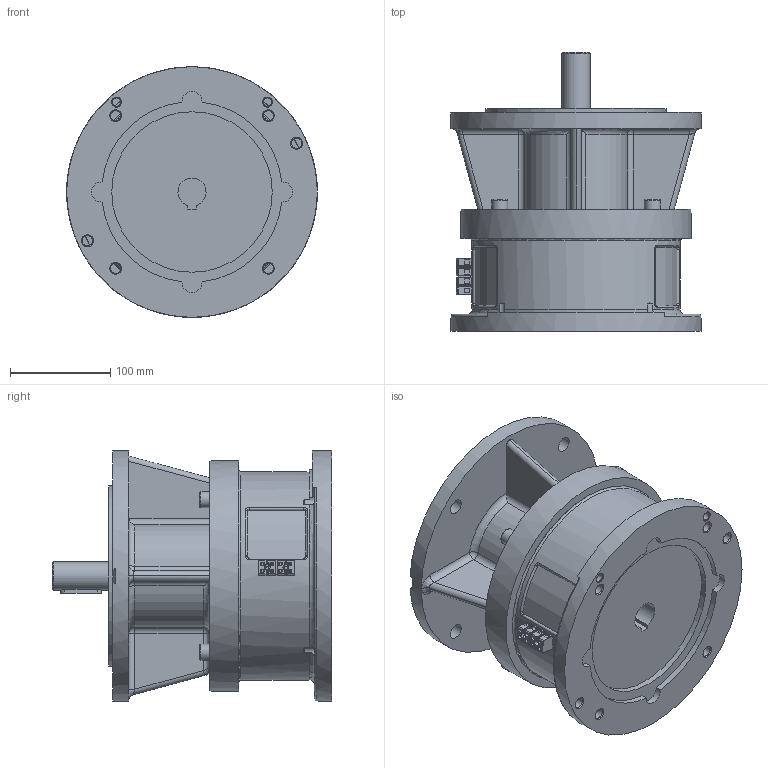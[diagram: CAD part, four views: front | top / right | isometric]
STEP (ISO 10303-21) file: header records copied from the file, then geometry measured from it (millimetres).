
FILE_DESCRIPTION (( 'STEP AP203' ), '1' );
FILE_NAME ('S-M80-K26.STEP', '2021-10-21T06:59:45', ( '' ), ( '' ), 'SwSTEP 2.0', 'SolidWorks 2015', '' );
FILE_SCHEMA (( 'CONFIG_CONTROL_DESIGN' ));
Length unit declared in the file: millimetre
Products named in the file (1): S-M80-K26
Bounding box: 250 x 278.1 x 250 mm (x, y, z)
Volume: 5919639.3 mm3; surface area: 378868.2 mm2
Topology: 1 solids, 3 shells, 468 faces, 1175 edges, 734 vertices
Faces by surface type: plane 236, cylinder 141, torus 37, bspline 24, cone 22, sphere 8
Full cylindrical faces by diameter (mm): 2.5 x2, 3.4 x2, 3.8 x8, 6 x2, 6.8 x2, 8.5 x2, 10.2 x8, 15 x4, 16 x4, 28 x1, 38 x1, 40 x1, 160 x1, 166 x1, 180 x1, 208 x1, 230 x1, 250 x2
Entity records: 14440 total; most frequent: CARTESIAN_POINT 3678, DIRECTION 2251, ORIENTED_EDGE 2124, EDGE_CURVE 1062, AXIS2_PLACEMENT_3D 840, VERTEX_POINT 695, EDGE_LOOP 593, VECTOR 571
